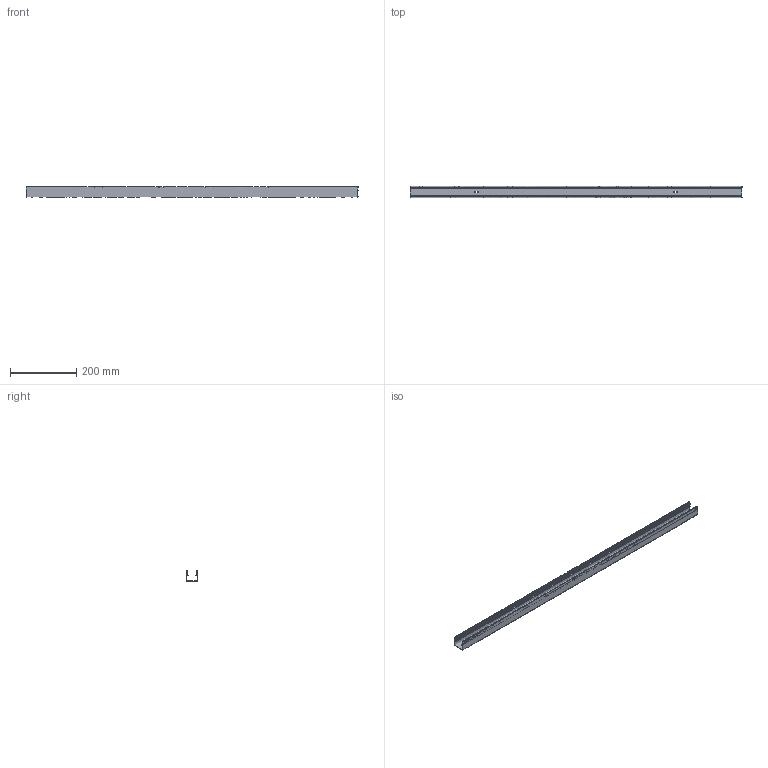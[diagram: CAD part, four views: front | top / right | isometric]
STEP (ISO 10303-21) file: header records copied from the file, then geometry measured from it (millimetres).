
FILE_DESCRIPTION(/* description */ (''),/* implementation_level */ '2;1');
FILE_NAME(/* name */ 'NF_3027_STRAIGHT_PROFILE_L1000_R01.step',/* time_stamp */ '2026-07-17T16:06:37+02:00',/* author */ (''),/* organization */ (''),/* preprocessor_version */ 'ST-DEVELOPER v20.1',/* originating_system */ 'Autodesk Translation Framework v15.8.0.0',/* authorisation */ '');
FILE_SCHEMA (('AUTOMOTIVE_DESIGN { 1 0 10303 214 3 1 1 }'));
Length unit declared in the file: millimetre
Products named in the file (1): 2026-07-17-15-40-42-937
Bounding box: 1000 x 35.49 x 30.59 mm (x, y, z)
Volume: 200135.4 mm3; surface area: 281956.1 mm2
Topology: 3 solids, 3 shells, 118 faces, 336 edges, 224 vertices
Faces by surface type: bspline 71, plane 43, cylinder 4
Entity records: 5211 total; most frequent: CARTESIAN_POINT 2554, ORIENTED_EDGE 672, DIRECTION 338, EDGE_CURVE 336, VERTEX_POINT 224, LINE 182, VECTOR 182, EDGE_LOOP 122
